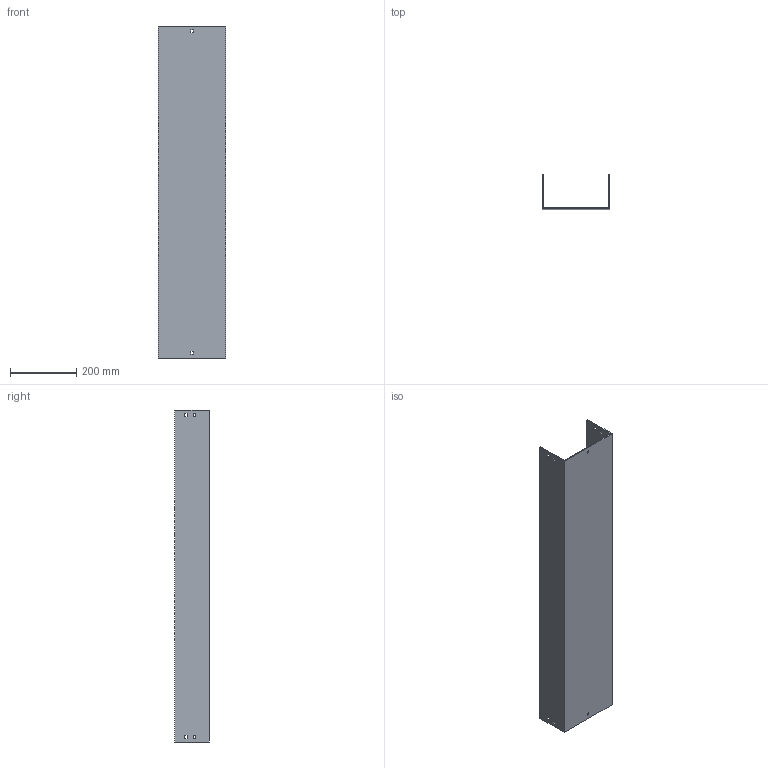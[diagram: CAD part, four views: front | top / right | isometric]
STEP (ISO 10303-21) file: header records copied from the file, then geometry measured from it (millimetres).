
FILE_DESCRIPTION (( 'STEP AP214' ), '1' );
FILE_NAME ('03F1D200.step', '2025-02-21T13:15:26', ( '' ), ( '' ), 'SwSTEP 2.0', 'SolidWorks 2023', '' );
FILE_SCHEMA (( 'AUTOMOTIVE_DESIGN' ));
Length unit declared in the file: millimetre
Products named in the file (1): 03F1D200
Bounding box: 204 x 104 x 1000 mm (x, y, z)
Volume: 1415130.5 mm3; surface area: 819650 mm2
Topology: 1 solids, 1 shells, 50 faces, 144 edges, 96 vertices
Faces by surface type: plane 50
Entity records: 1671 total; most frequent: CARTESIAN_POINT 291, ORIENTED_EDGE 288, DIRECTION 246, EDGE_CURVE 144, LINE 144, VECTOR 144, VERTEX_POINT 96, EDGE_LOOP 70
